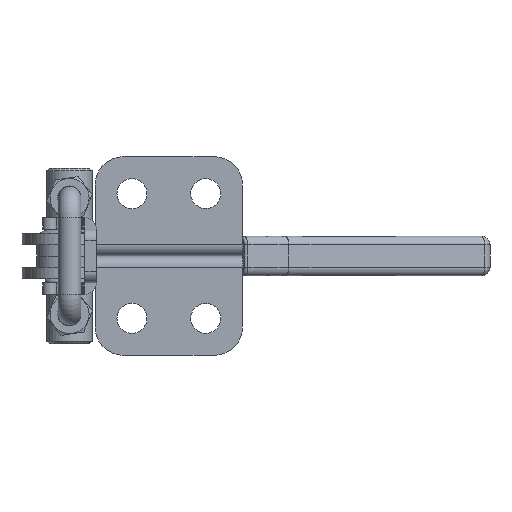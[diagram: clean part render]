
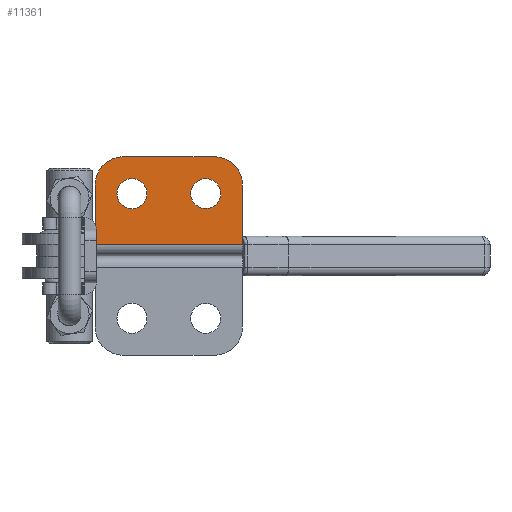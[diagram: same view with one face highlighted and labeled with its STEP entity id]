
A CAD part, front view. The second image highlights one B-rep face of the part: STEP entity #11361.
In plain terms, the highlighted planar face has unit normal (0, -1, 0).
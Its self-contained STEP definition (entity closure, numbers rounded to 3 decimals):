
#961=FACE_BOUND('',#1934,.T.);
#962=FACE_BOUND('',#1935,.T.);
#1023=PLANE('',#12218);
#1282=FACE_OUTER_BOUND('',#1933,.T.);
#1933=EDGE_LOOP('',(#7817,#7818,#7819,#7820,#7821,#7822));
#1934=EDGE_LOOP('',(#7823,#7824));
#1935=EDGE_LOOP('',(#7825,#7826));
#2678=LINE('',#16171,#3573);
#2687=LINE('',#16192,#3582);
#2690=LINE('',#16201,#3585);
#2691=LINE('',#16203,#3586);
#3573=VECTOR('',#13078,1000.);
#3582=VECTOR('',#13107,1000.);
#3585=VECTOR('',#13116,1000.);
#3586=VECTOR('',#13119,1000.);
#4399=CIRCLE('',#12174,2.65);
#4400=CIRCLE('',#12175,2.65);
#4403=CIRCLE('',#12179,2.65);
#4404=CIRCLE('',#12180,2.65);
#4427=CIRCLE('',#12219,5.);
#4428=CIRCLE('',#12220,5.);
#4678=VERTEX_POINT('',#15367);
#4679=VERTEX_POINT('',#15368);
#4682=VERTEX_POINT('',#15377);
#4683=VERTEX_POINT('',#15378);
#4799=VERTEX_POINT('',#16168);
#4800=VERTEX_POINT('',#16170);
#4801=VERTEX_POINT('',#16190);
#4802=VERTEX_POINT('',#16191);
#4804=VERTEX_POINT('',#16198);
#4805=VERTEX_POINT('',#16200);
#5860=EDGE_CURVE('',#4678,#4679,#4399,.T.);
#5861=EDGE_CURVE('',#4679,#4678,#4400,.T.);
#5865=EDGE_CURVE('',#4682,#4683,#4403,.T.);
#5866=EDGE_CURVE('',#4683,#4682,#4404,.T.);
#5988=EDGE_CURVE('',#4799,#4800,#2678,.T.);
#5998=EDGE_CURVE('',#4801,#4802,#2687,.T.);
#6002=EDGE_CURVE('',#4799,#4804,#4427,.T.);
#6003=EDGE_CURVE('',#4805,#4804,#2690,.T.);
#6004=EDGE_CURVE('',#4805,#4801,#4428,.T.);
#6005=EDGE_CURVE('',#4802,#4800,#2691,.T.);
#7817=ORIENTED_EDGE('',*,*,#5988,.F.);
#7818=ORIENTED_EDGE('',*,*,#6002,.T.);
#7819=ORIENTED_EDGE('',*,*,#6003,.F.);
#7820=ORIENTED_EDGE('',*,*,#6004,.T.);
#7821=ORIENTED_EDGE('',*,*,#5998,.T.);
#7822=ORIENTED_EDGE('',*,*,#6005,.T.);
#7823=ORIENTED_EDGE('',*,*,#5860,.T.);
#7824=ORIENTED_EDGE('',*,*,#5861,.T.);
#7825=ORIENTED_EDGE('',*,*,#5865,.T.);
#7826=ORIENTED_EDGE('',*,*,#5866,.T.);
#11361=ADVANCED_FACE('',(#1282,#961,#962),#1023,.F.);
#12174=AXIS2_PLACEMENT_3D('',#15369,#12943,#12944);
#12175=AXIS2_PLACEMENT_3D('',#15370,#12945,#12946);
#12179=AXIS2_PLACEMENT_3D('',#15379,#12954,#12955);
#12180=AXIS2_PLACEMENT_3D('',#15380,#12956,#12957);
#12218=AXIS2_PLACEMENT_3D('',#16197,#13112,#13113);
#12219=AXIS2_PLACEMENT_3D('',#16199,#13114,#13115);
#12220=AXIS2_PLACEMENT_3D('',#16202,#13117,#13118);
#12943=DIRECTION('center_axis',(0.,1.,0.));
#12944=DIRECTION('ref_axis',(-1.,0.,0.));
#12945=DIRECTION('center_axis',(0.,1.,0.));
#12946=DIRECTION('ref_axis',(-1.,0.,0.));
#12954=DIRECTION('center_axis',(0.,1.,0.));
#12955=DIRECTION('ref_axis',(-1.,0.,0.));
#12956=DIRECTION('center_axis',(0.,1.,0.));
#12957=DIRECTION('ref_axis',(-1.,0.,0.));
#13078=DIRECTION('',(0.,0.,-1.));
#13107=DIRECTION('',(0.,0.,-1.));
#13112=DIRECTION('center_axis',(0.,1.,0.));
#13113=DIRECTION('ref_axis',(-1.,0.,0.));
#13114=DIRECTION('center_axis',(0.,-1.,0.));
#13115=DIRECTION('ref_axis',(-1.,0.,0.));
#13116=DIRECTION('',(1.,0.,0.));
#13117=DIRECTION('center_axis',(0.,-1.,0.));
#13118=DIRECTION('ref_axis',(-1.,0.,0.));
#13119=DIRECTION('',(1.,0.,0.));
#15367=CARTESIAN_POINT('',(-19.5,0.,13.65));
#15368=CARTESIAN_POINT('',(-19.5,0.,8.35));
#15369=CARTESIAN_POINT('Origin',(-19.5,0.,11.));
#15370=CARTESIAN_POINT('Origin',(-19.5,0.,11.));
#15377=CARTESIAN_POINT('',(-6.5,0.,13.65));
#15378=CARTESIAN_POINT('',(-6.5,0.,8.35));
#15379=CARTESIAN_POINT('Origin',(-6.5,0.,11.));
#15380=CARTESIAN_POINT('Origin',(-6.5,0.,11.));
#16168=CARTESIAN_POINT('',(0.,0.,12.5));
#16170=CARTESIAN_POINT('',(0.,0.,2.));
#16171=CARTESIAN_POINT('',(0.,0.,2.));
#16190=CARTESIAN_POINT('',(-26.,0.,12.5));
#16191=CARTESIAN_POINT('',(-26.,0.,2.));
#16192=CARTESIAN_POINT('',(-26.,0.,2.));
#16197=CARTESIAN_POINT('Origin',(0.,0.,2.));
#16198=CARTESIAN_POINT('',(-5.,0.,17.5));
#16199=CARTESIAN_POINT('Origin',(-5.,0.,12.5));
#16200=CARTESIAN_POINT('',(-21.,0.,17.5));
#16201=CARTESIAN_POINT('',(-26.,0.,17.5));
#16202=CARTESIAN_POINT('Origin',(-21.,0.,12.5));
#16203=CARTESIAN_POINT('',(0.,0.,2.));
